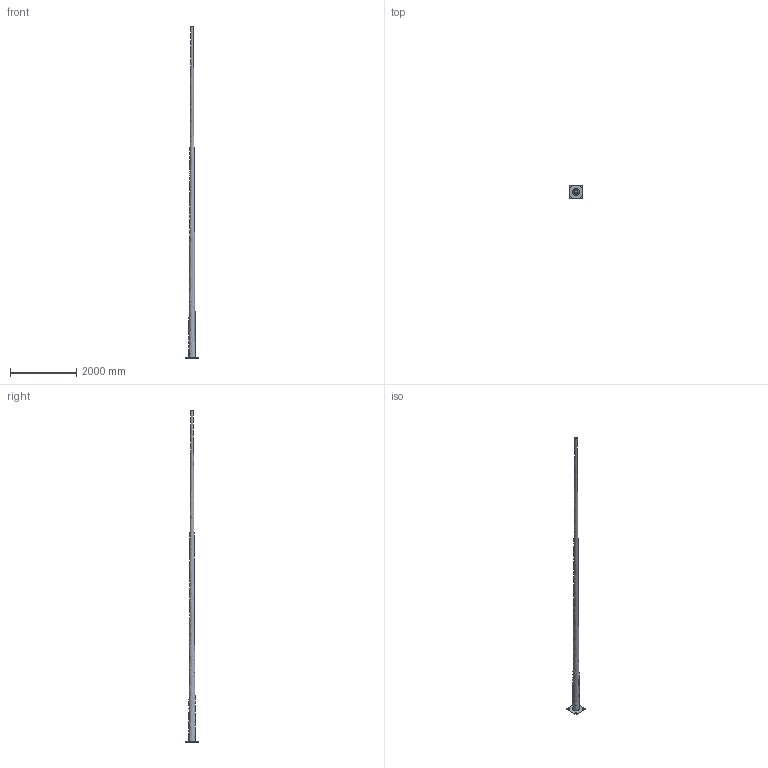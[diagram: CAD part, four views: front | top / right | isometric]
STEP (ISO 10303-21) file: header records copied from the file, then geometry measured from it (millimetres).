
FILE_DESCRIPTION(('FreeCAD Model'),'2;1');
FILE_NAME('Open CASCADE Shape Model','2024-12-18T15:02:18',(''),(''), 'Open CASCADE STEP processor 7.8','FreeCAD','Unknown');
FILE_SCHEMA(('AUTOMOTIVE_DESIGN { 1 0 10303 214 1 1 1 1 }'));
Length unit declared in the file: millimetre
Products named in the file (1): Body
Bounding box: 412 x 412 x 10000 mm (x, y, z)
Volume: 13442281 mm3; surface area: 8753789 mm2
Topology: 1 solids, 1 shells, 51 faces, 143 edges, 96 vertices
Faces by surface type: plane 32, cylinder 16, bspline 2, offset 1
Entity records: 3053 total; most frequent: CARTESIAN_POINT 1795, ORIENTED_EDGE 286, DIRECTION 198, EDGE_CURVE 143, VERTEX_POINT 96, LINE 68, VECTOR 68, AXIS2_PLACEMENT_3D 65
